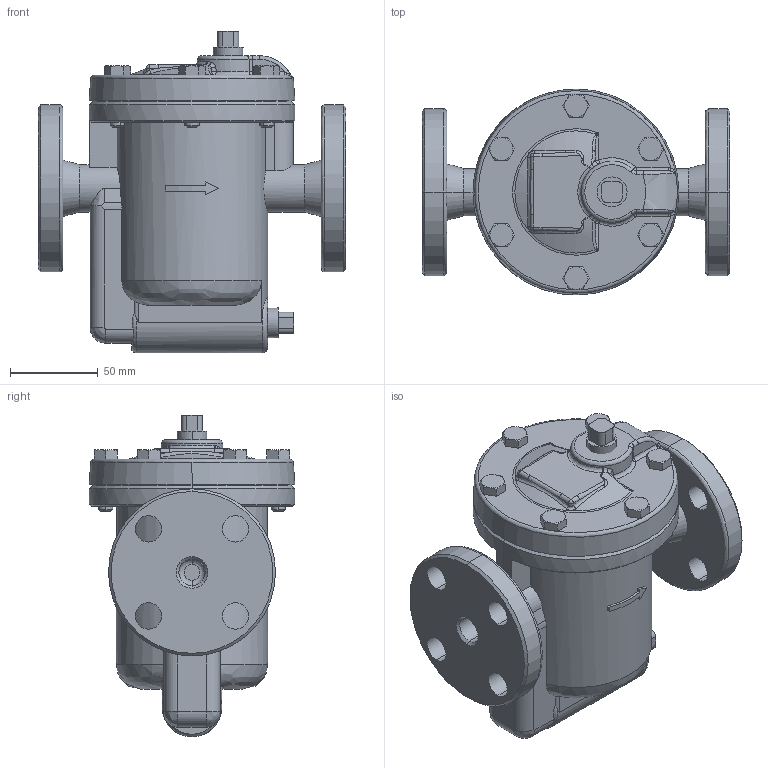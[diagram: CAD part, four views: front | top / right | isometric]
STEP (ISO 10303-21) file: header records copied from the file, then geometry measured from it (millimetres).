
FILE_DESCRIPTION( (''), '2;1');
FILE_NAME ('PC1027.940.1202-05-07 rev00 TB-20F 15A_3288.stp','2025-08-01T09:14:26',(''),(''),'spGate 20.6.3 (****-****-****-****)','','');
FILE_SCHEMA (('AUTOMOTIVE_DESIGN'));
Length unit declared in the file: millimetre
Products named in the file (5): Assembly; TB-20 ふた; CP_''_JIS B 1180 呼び径六角ボルト''_17166; TB-20プラグ3_8(3D）; TB-20F 15A 本体
Assembly tree (10 placements, depth 2):
  Assembly
    TB-20 ふた
    CP_''_JIS B 1180 呼び径六角ボルト''_17166  x6
    TB-20プラグ3_8(3D）  x2
    TB-20F 15A 本体
Bounding box: 175 x 117 x 182.9 mm (x, y, z)
Volume: 1209355.8 mm3; surface area: 147498.6 mm2
Topology: 10 solids, 10 shells, 405 faces, 949 edges, 581 vertices
Faces by surface type: bspline 157, plane 133, cylinder 108, sphere 7
Entity records: 15995 total; most frequent: CARTESIAN_POINT 4743, ORIENTED_EDGE 1326, DIRECTION 1103, COLOUR_RGB 939, PRESENTATION_STYLE_ASSIGNMENT 939, STYLED_ITEM 939, EDGE_CURVE 663, DRAUGHTING_PRE_DEFINED_CURVE_FONT 663
